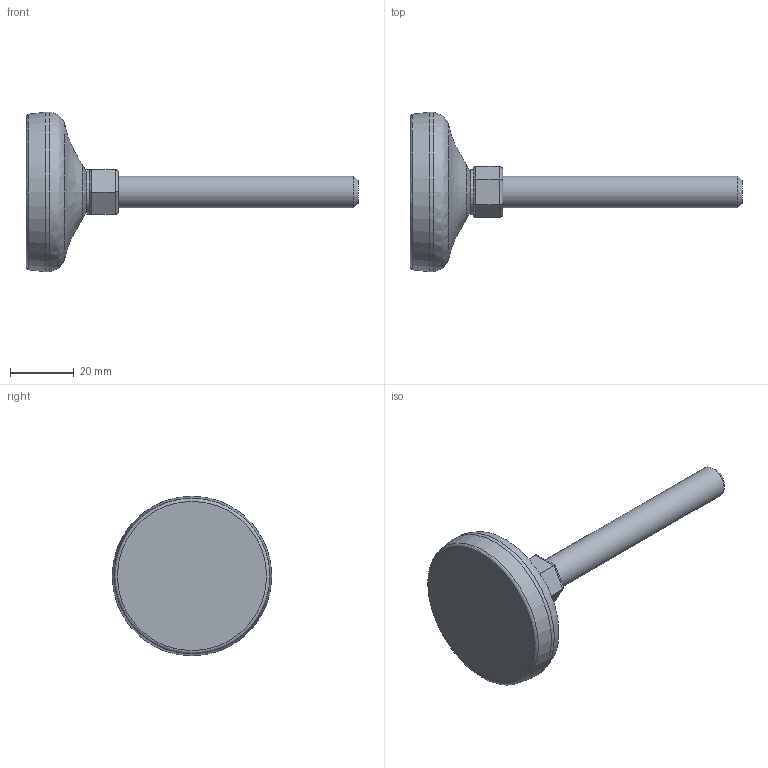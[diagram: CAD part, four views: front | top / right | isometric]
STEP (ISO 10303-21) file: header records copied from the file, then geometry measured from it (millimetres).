
FILE_DESCRIPTION(('STEP AP203'),'2;1');
FILE_NAME('24502.stp','2015-08-27T11:42:30',(''),(''),'2008.1.107','THINKDESIGN','');
FILE_SCHEMA(('CONFIG_CONTROL_DESIGN'));
Length unit declared in the file: millimetre
Bounding box: 104 x 50 x 50 mm (x, y, z)
Volume: 33926.6 mm3; surface area: 12957 mm2
Topology: 5 solids, 5 shells, 37 faces, 77 edges, 50 vertices
Faces by surface type: plane 16, cylinder 15, bspline 6
Full cylindrical faces by diameter (mm): 10 x1, 14 x1, 50 x1
Entity records: 1311 total; most frequent: CARTESIAN_POINT 448, DIRECTION 157, ORIENTED_EDGE 154, EDGE_CURVE 77, AXIS2_PLACEMENT_3D 61, VERTEX_POINT 50, EDGE_LOOP 37, FACE_OUTER_BOUND 37
